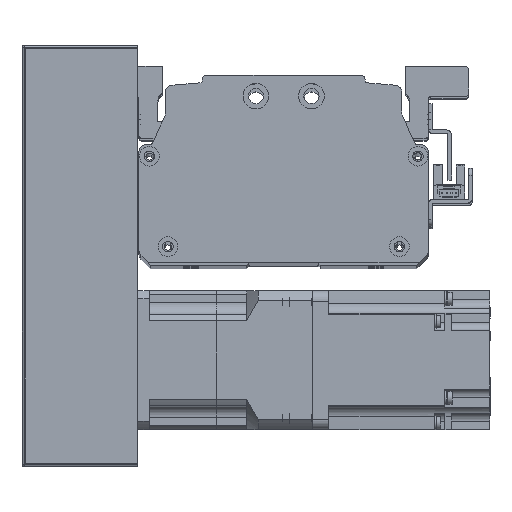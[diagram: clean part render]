
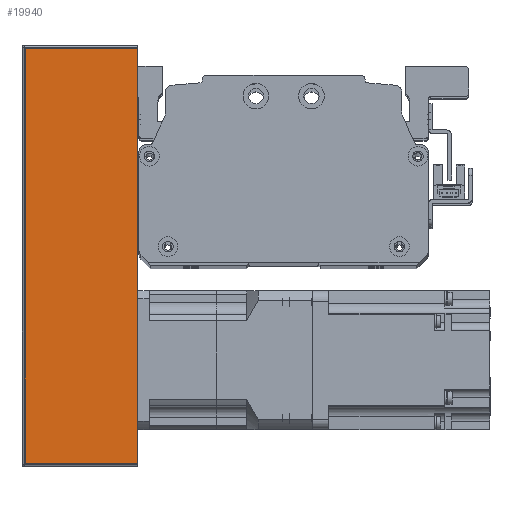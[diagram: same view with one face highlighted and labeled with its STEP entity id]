
A CAD part, top view. The second image highlights one B-rep face of the part: STEP entity #19940.
In plain terms, the highlighted planar face has unit normal (0, 0, 1) as drawn and (0, 1, 0) by its records, which use the part's own axes.
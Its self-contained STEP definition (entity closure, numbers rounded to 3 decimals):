
#609=PLANE('',#21924);
#1812=LINE('',#32849,#3436);
#1829=LINE('',#32903,#3453);
#1834=LINE('',#32927,#3458);
#1853=LINE('',#32990,#3477);
#3436=VECTOR('',#26559,10.);
#3453=VECTOR('',#26612,10.);
#3458=VECTOR('',#26649,10.);
#3477=VECTOR('',#26732,10.);
#5854=FACE_OUTER_BOUND('',#7314,.T.);
#7314=EDGE_LOOP('',(#17225,#17226,#17227,#17228));
#10171=VERTEX_POINT('',#32846);
#10172=VERTEX_POINT('',#32848);
#10190=VERTEX_POINT('',#32900);
#10191=VERTEX_POINT('',#32902);
#12618=EDGE_CURVE('',#10171,#10172,#1812,.T.);
#12646=EDGE_CURVE('',#10190,#10191,#1829,.T.);
#12660=EDGE_CURVE('',#10172,#10190,#1834,.T.);
#12691=EDGE_CURVE('',#10191,#10171,#1853,.T.);
#17225=ORIENTED_EDGE('',*,*,#12646,.F.);
#17226=ORIENTED_EDGE('',*,*,#12660,.F.);
#17227=ORIENTED_EDGE('',*,*,#12618,.F.);
#17228=ORIENTED_EDGE('',*,*,#12691,.F.);
#19940=ADVANCED_FACE('',(#5854),#609,.T.);
#21924=AXIS2_PLACEMENT_3D('',#32989,#26730,#26731);
#26559=DIRECTION('',(-1.,0.,0.));
#26612=DIRECTION('',(1.,0.,0.));
#26649=DIRECTION('',(0.,0.,-1.));
#26730=DIRECTION('center_axis',(0.,1.,0.));
#26731=DIRECTION('ref_axis',(-1.,0.,0.));
#26732=DIRECTION('',(0.,0.,1.));
#32846=CARTESIAN_POINT('',(90.,38.,25.));
#32848=CARTESIAN_POINT('',(-90.,38.,25.));
#32849=CARTESIAN_POINT('',(-91.,38.,25.));
#32900=CARTESIAN_POINT('',(-90.,38.,-24.));
#32902=CARTESIAN_POINT('',(90.,38.,-24.));
#32903=CARTESIAN_POINT('',(45.5,38.,-24.));
#32927=CARTESIAN_POINT('',(-90.,38.,0.));
#32989=CARTESIAN_POINT('Origin',(91.,38.,0.));
#32990=CARTESIAN_POINT('',(90.,38.,0.));
